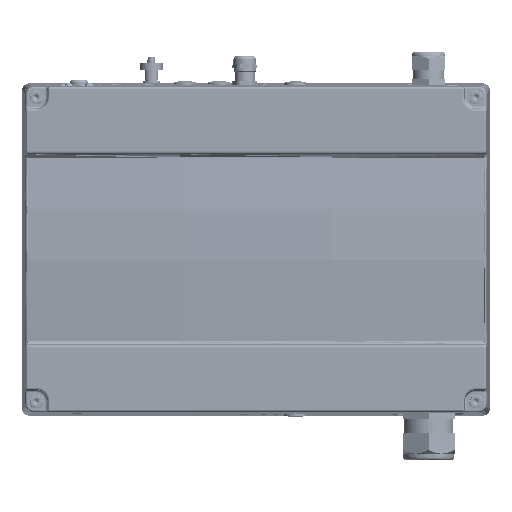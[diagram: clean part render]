
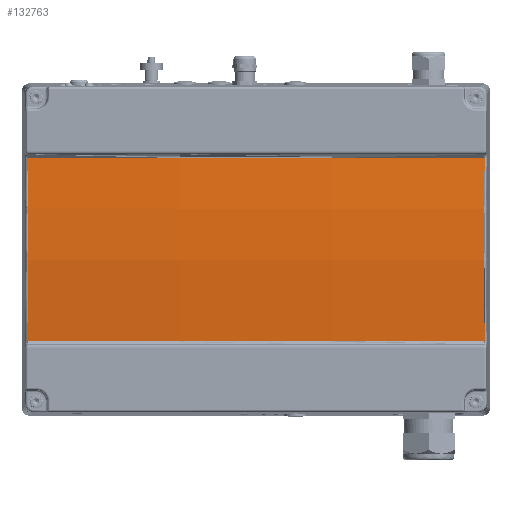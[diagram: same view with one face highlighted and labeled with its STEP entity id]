
A CAD part, top view. The second image highlights one B-rep face of the part: STEP entity #132763.
In plain terms, the highlighted toroidal (fillet/blend) face has major radius 4305.07 mm and minor radius 700 mm.
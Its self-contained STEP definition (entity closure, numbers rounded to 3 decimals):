
#132719=AXIS2_PLACEMENT_3D('Circle Axis2P3D',#132717,#132718,$) ;
#132732=AXIS2_PLACEMENT_3D('Torus Axis2P3D',#132729,#132730,#132731) ;
#132745=AXIS2_PLACEMENT_3D('Circle Axis2P3D',#132743,#132744,$) ;
#132704=CARTESIAN_POINT('Vertex',(-2.864,80.754,111.31)) ;
#132714=CARTESIAN_POINT('Vertex',(-407.136,80.754,111.31)) ;
#132717=CARTESIAN_POINT('Axis2P3D Location',(-205.,80.754,-4885.)) ;
#132729=CARTESIAN_POINT('Axis2P3D Location',(-205.,0.,-4885.)) ;
#132735=CARTESIAN_POINT('Control Point',(-407.136,-80.754,111.31)) ;
#132736=CARTESIAN_POINT('Control Point',(-406.973,-40.558,115.988)) ;
#132737=CARTESIAN_POINT('Control Point',(-406.918,0.,117.562)) ;
#132738=CARTESIAN_POINT('Control Point',(-406.973,40.558,115.988)) ;
#132739=CARTESIAN_POINT('Control Point',(-407.136,80.754,111.31)) ;
#132740=CARTESIAN_POINT('Vertex',(-407.136,-80.754,111.31)) ;
#132743=CARTESIAN_POINT('Axis2P3D Location',(-205.,-80.754,-4885.)) ;
#132747=CARTESIAN_POINT('Vertex',(-2.864,-80.754,111.31)) ;
#132751=CARTESIAN_POINT('Control Point',(-2.864,-80.754,111.31)) ;
#132752=CARTESIAN_POINT('Control Point',(-3.027,-40.558,115.988)) ;
#132753=CARTESIAN_POINT('Control Point',(-3.082,0.,117.562)) ;
#132754=CARTESIAN_POINT('Control Point',(-3.027,40.558,115.988)) ;
#132755=CARTESIAN_POINT('Control Point',(-2.864,80.754,111.31)) ;
#132718=DIRECTION('Axis2P3D Direction',(0.,1.,0.)) ;
#132730=DIRECTION('Axis2P3D Direction',(0.,1.,0.)) ;
#132731=DIRECTION('Axis2P3D XDirection',(-0.041,0.,0.999)) ;
#132744=DIRECTION('Axis2P3D Direction',(0.,1.,-0.)) ;
#132758=ORIENTED_EDGE('',*,*,#132721,.F.) ;
#132759=ORIENTED_EDGE('',*,*,#132742,.T.) ;
#132760=ORIENTED_EDGE('',*,*,#132749,.F.) ;
#132761=ORIENTED_EDGE('',*,*,#132756,.T.) ;
#132763=ADVANCED_FACE('Top cover . ASM pre-assy - DECKEL MIT DICHTUNG PLK BG-D.1\\Top cover . MET Lacquered - PLK BG-D.1\\PartBody',(#132762),#132733,.T.) ;
#132734=B_SPLINE_CURVE_WITH_KNOTS('',4,(#132735,#132736,#132737,#132738,#132739),.UNSPECIFIED.,.F.,.U.,(5,5),(162.531,391.123),.UNSPECIFIED.) ;
#132750=B_SPLINE_CURVE_WITH_KNOTS('',4,(#132751,#132752,#132753,#132754,#132755),.UNSPECIFIED.,.F.,.U.,(5,5),(162.531,391.123),.UNSPECIFIED.) ;
#132720=CIRCLE('generated circle',#132719,5000.397) ;
#132746=CIRCLE('generated circle',#132745,5000.397) ;
#132733=TOROIDAL_SURFACE('homeo Torus',#132732,4305.07,700.) ;
#132721=EDGE_CURVE('',#132715,#132705,#132720,.T.) ;
#132742=EDGE_CURVE('',#132715,#132741,#132734,.F.) ;
#132749=EDGE_CURVE('',#132748,#132741,#132746,.F.) ;
#132756=EDGE_CURVE('',#132748,#132705,#132750,.T.) ;
#132757=EDGE_LOOP('',(#132758,#132759,#132760,#132761)) ;
#132762=FACE_OUTER_BOUND('',#132757,.T.) ;
#132705=VERTEX_POINT('',#132704) ;
#132715=VERTEX_POINT('',#132714) ;
#132741=VERTEX_POINT('',#132740) ;
#132748=VERTEX_POINT('',#132747) ;
